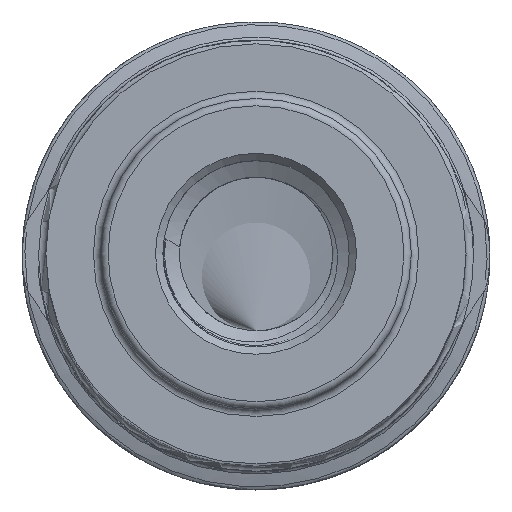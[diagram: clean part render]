
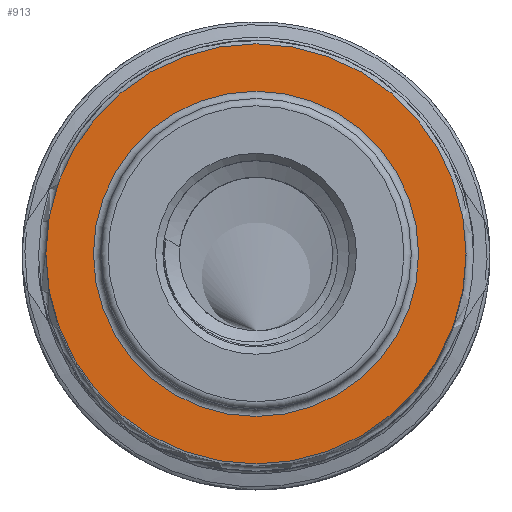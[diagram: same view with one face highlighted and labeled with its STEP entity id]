
A CAD part, top view. The second image highlights one B-rep face of the part: STEP entity #913.
In plain terms, the highlighted planar face has unit normal (0, 0, 1).
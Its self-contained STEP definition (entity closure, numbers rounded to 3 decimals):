
#16=FACE_BOUND('',#180,.T.);
#24=PLANE('',#1012);
#62=CIRCLE('',#984,5.75);
#82=CIRCLE('',#1010,4.45);
#83=CIRCLE('',#1011,4.45);
#128=FACE_OUTER_BOUND('',#179,.T.);
#179=EDGE_LOOP('',(#793));
#180=EDGE_LOOP('',(#794,#795));
#392=VERTEX_POINT('',#2879);
#416=VERTEX_POINT('',#4403);
#417=VERTEX_POINT('',#4405);
#514=EDGE_CURVE('',#392,#392,#62,.T.);
#554=EDGE_CURVE('',#416,#417,#82,.T.);
#555=EDGE_CURVE('',#417,#416,#83,.T.);
#793=ORIENTED_EDGE('',*,*,#514,.T.);
#794=ORIENTED_EDGE('',*,*,#555,.F.);
#795=ORIENTED_EDGE('',*,*,#554,.F.);
#913=ADVANCED_FACE('',(#128,#16),#24,.T.);
#984=AXIS2_PLACEMENT_3D('',#2880,#1129,#1130);
#1010=AXIS2_PLACEMENT_3D('',#4406,#1190,#1191);
#1011=AXIS2_PLACEMENT_3D('',#4407,#1192,#1193);
#1012=AXIS2_PLACEMENT_3D('',#4408,#1194,#1195);
#1129=DIRECTION('center_axis',(0.,0.,1.));
#1130=DIRECTION('ref_axis',(0.,-1.,0.));
#1190=DIRECTION('center_axis',(0.,0.,1.));
#1191=DIRECTION('ref_axis',(0.,-1.,0.));
#1192=DIRECTION('center_axis',(0.,0.,1.));
#1193=DIRECTION('ref_axis',(0.,-1.,0.));
#1194=DIRECTION('center_axis',(0.,0.,1.));
#1195=DIRECTION('ref_axis',(1.,0.,0.));
#2879=CARTESIAN_POINT('',(0.,5.75,0.));
#2880=CARTESIAN_POINT('Origin',(0.,0.,0.));
#4403=CARTESIAN_POINT('',(4.45,0.,0.));
#4405=CARTESIAN_POINT('',(0.,4.45,0.));
#4406=CARTESIAN_POINT('Origin',(0.,0.,0.));
#4407=CARTESIAN_POINT('Origin',(0.,0.,0.));
#4408=CARTESIAN_POINT('Origin',(0.,5.075,0.));
